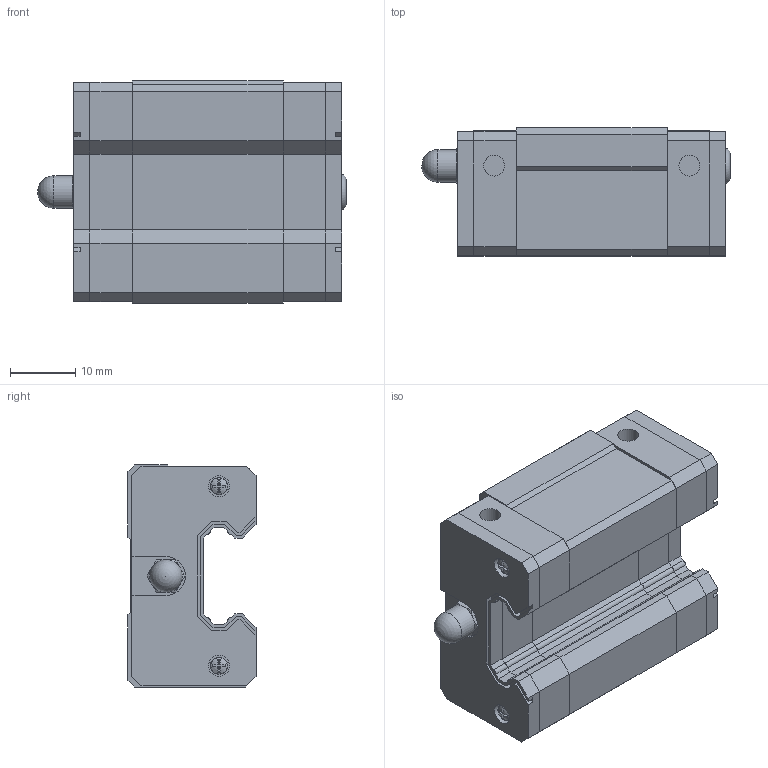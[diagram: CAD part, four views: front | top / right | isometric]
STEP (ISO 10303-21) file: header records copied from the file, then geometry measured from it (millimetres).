
FILE_DESCRIPTION(('FreeCAD Model'),'2;1');
FILE_NAME('Open CASCADE Shape Model','2024-12-05T09:57:02',('Author'),( ''),'Open CASCADE STEP processor 7.6','FreeCAD','Unknown');
FILE_SCHEMA(('AUTOMOTIVE_DESIGN { 1 0 10303 214 1 1 1 1 }'));
Length unit declared in the file: millimetre
Products named in the file (7): EH15SA; GEH15SA_slider; GES15_C; GES15_P; GH15_SCREW; GH15_BOLT; GH15-_G
Assembly tree (11 placements, depth 2):
  EH15SA
    GEH15SA_slider
    GES15_C  x2
    GES15_P  x2
    GH15_SCREW  x4
    GH15_BOLT
    GH15-_G
Bounding box: 47.27 x 19.6 x 34 mm (x, y, z)
Volume: 21674.3 mm3; surface area: 11394.1 mm2
Topology: 11 solids, 11 shells, 352 faces, 929 edges, 613 vertices
Faces by surface type: plane 284, cylinder 48, cone 10, sphere 5, torus 5
Full cylindrical faces by diameter (mm): 2.2 x4, 2.64 x4, 3.15 x2, 3.2 x4, 3.23 x4, 3.242 x2, 4 x2, 4.3 x2, 5 x1, 5.5 x1
Entity records: 6232 total; most frequent: CARTESIAN_POINT 1132, ORIENTED_EDGE 1022, DIRECTION 974, EDGE_CURVE 511, LINE 394, VECTOR 394, VERTEX_POINT 337, AXIS2_PLACEMENT_3D 290
